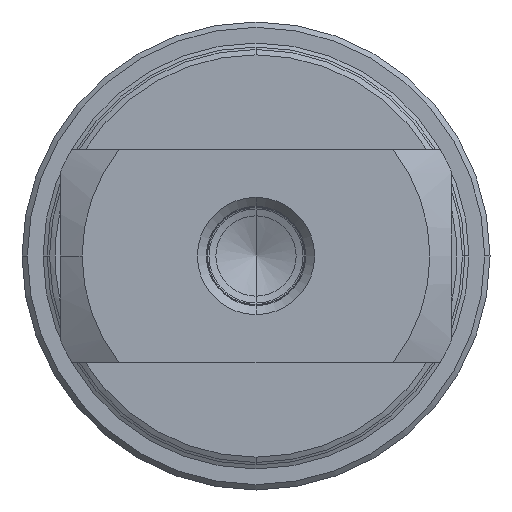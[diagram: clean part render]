
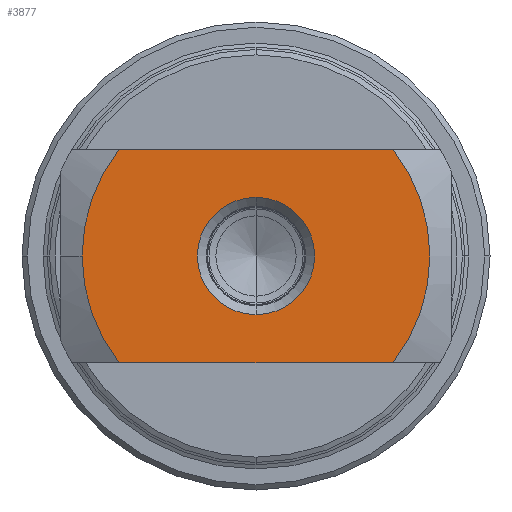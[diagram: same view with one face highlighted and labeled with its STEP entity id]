
A CAD part, front view. The second image highlights one B-rep face of the part: STEP entity #3877.
In plain terms, the highlighted planar face has unit normal (0, -1, 0).
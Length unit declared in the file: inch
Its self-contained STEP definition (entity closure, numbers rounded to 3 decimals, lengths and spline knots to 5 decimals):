
#793 = EDGE_CURVE ( 'NONE', #5869, #5870, #7906, .T. ) ;
#801 = EDGE_CURVE ( 'NONE', #4580, #5793, #6506, .T. ) ;
#804 = EDGE_CURVE ( 'NONE', #5870, #5862, #6508, .T. ) ;
#860 = EDGE_CURVE ( 'NONE', #5792, #5862, #3399, .T. ) ;
#865 = EDGE_CURVE ( 'NONE', #5869, #5791, #6881, .T. ) ;
#1433 = CARTESIAN_POINT ( 'NONE',  ( -0.8125, -1.146, 0. ) ) ;
#1434 = CARTESIAN_POINT ( 'NONE',  ( -0.64043, -1.146, -0.5 ) ) ;
#1435 = CARTESIAN_POINT ( 'NONE',  ( 0., -1.146, -0.2736 ) ) ;
#1504 = CARTESIAN_POINT ( 'NONE',  ( 0.64043, -1.146, -0.5 ) ) ;
#1511 = CARTESIAN_POINT ( 'NONE',  ( -0.64043, -1.146, 0.5 ) ) ;
#1512 = CARTESIAN_POINT ( 'NONE',  ( 0.64043, -1.146, 0.5 ) ) ;
#1807 = CARTESIAN_POINT ( 'NONE',  ( 0., -1.146, 0. ) ) ;
#1808 = DIRECTION ( 'NONE',  ( 0., -1., 0. ) ) ;
#1809 = DIRECTION ( 'NONE',  ( -1., 0., 0. ) ) ;
#1885 = CARTESIAN_POINT ( 'NONE',  ( 0., -1.146, 0. ) ) ;
#1886 = DIRECTION ( 'NONE',  ( 0., 1., 0. ) ) ;
#1887 = DIRECTION ( 'NONE',  ( 0., 0., -1. ) ) ;
#2854 = CARTESIAN_POINT ( 'NONE',  ( 0., -1.146, 0. ) ) ;
#2857 = FACE_BOUND ( 'NONE', #4359, .T. ) ;
#2858 = FACE_OUTER_BOUND ( 'NONE', #4487, .T. ) ;
#2859 = PLANE ( 'NONE',  #6219 ) ;
#2861 = DIRECTION ( 'NONE',  ( 0., -1., 0. ) ) ;
#2862 = DIRECTION ( 'NONE',  ( 0., 0., -1. ) ) ;
#2919 = CARTESIAN_POINT ( 'NONE',  ( 0., -1.146, 0.2736 ) ) ;
#3399 = LINE ( 'NONE', #3401, #6223 ) ;
#3401 = CARTESIAN_POINT ( 'NONE',  ( -0.96995, -1.146, -0.5 ) ) ;
#3402 = DIRECTION ( 'NONE',  ( 1., 0., 0. ) ) ;
#3418 = CARTESIAN_POINT ( 'NONE',  ( 0., -1.146, 0. ) ) ;
#3419 = DIRECTION ( 'NONE',  ( 0., -1., 0. ) ) ;
#3420 = DIRECTION ( 'NONE',  ( -1., 0., 0. ) ) ;
#3877 = ADVANCED_FACE ( 'NONE', ( #2857, #2858 ), #2859, .T. ) ;
#4048 = ORIENTED_EDGE ( 'NONE', *, *, #793, .F. ) ;
#4051 = ORIENTED_EDGE ( 'NONE', *, *, #804, .F. ) ;
#4052 = ORIENTED_EDGE ( 'NONE', *, *, #860, .T. ) ;
#4053 = ORIENTED_EDGE ( 'NONE', *, *, #8069, .T. ) ;
#4054 = ORIENTED_EDGE ( 'NONE', *, *, #865, .T. ) ;
#4055 = ORIENTED_EDGE ( 'NONE', *, *, #801, .T. ) ;
#4056 = ORIENTED_EDGE ( 'NONE', *, *, #8094, .T. ) ;
#4359 = EDGE_LOOP ( 'NONE', ( #4056, #4055 ) ) ;
#4487 = EDGE_LOOP ( 'NONE', ( #4054, #4053, #4052, #4051, #4048 ) ) ;
#4580 = VERTEX_POINT ( 'NONE', #2919 ) ;
#5791 = VERTEX_POINT ( 'NONE', #1433 ) ;
#5792 = VERTEX_POINT ( 'NONE', #1434 ) ;
#5793 = VERTEX_POINT ( 'NONE', #1435 ) ;
#5862 = VERTEX_POINT ( 'NONE', #1504 ) ;
#5869 = VERTEX_POINT ( 'NONE', #1511 ) ;
#5870 = VERTEX_POINT ( 'NONE', #1512 ) ;
#6219 = AXIS2_PLACEMENT_3D ( 'NONE', #2854, #2861, #2862 ) ;
#6223 = VECTOR ( 'NONE', #3402, 39.37008 ) ;
#6496 = VECTOR ( 'NONE', #7910, 39.37008 ) ;
#6506 = CIRCLE ( 'NONE', #6510, 0.2736 ) ;
#6508 = CIRCLE ( 'NONE', #6804, 0.8125 ) ;
#6510 = AXIS2_PLACEMENT_3D ( 'NONE', #7943, #7944, #7945 ) ;
#6804 = AXIS2_PLACEMENT_3D ( 'NONE', #7951, #7952, #7953 ) ;
#6867 = AXIS2_PLACEMENT_3D ( 'NONE', #3418, #3419, #3420 ) ;
#6881 = CIRCLE ( 'NONE', #6867, 0.8125 ) ;
#7331 = AXIS2_PLACEMENT_3D ( 'NONE', #1885, #1886, #1887 ) ;
#7337 = CIRCLE ( 'NONE', #7331, 0.2736 ) ;
#7364 = AXIS2_PLACEMENT_3D ( 'NONE', #1807, #1808, #1809 ) ;
#7367 = CIRCLE ( 'NONE', #7364, 0.8125 ) ;
#7901 = CARTESIAN_POINT ( 'NONE',  ( -0.96995, -1.146, 0.5 ) ) ;
#7906 = LINE ( 'NONE', #7901, #6496 ) ;
#7910 = DIRECTION ( 'NONE',  ( 1., 0., 0. ) ) ;
#7943 = CARTESIAN_POINT ( 'NONE',  ( 0., -1.146, 0. ) ) ;
#7944 = DIRECTION ( 'NONE',  ( 0., 1., 0. ) ) ;
#7945 = DIRECTION ( 'NONE',  ( 0., 0., -1. ) ) ;
#7951 = CARTESIAN_POINT ( 'NONE',  ( 0., -1.146, 0. ) ) ;
#7952 = DIRECTION ( 'NONE',  ( 0., 1., 0. ) ) ;
#7953 = DIRECTION ( 'NONE',  ( -1., 0., 0. ) ) ;
#8069 = EDGE_CURVE ( 'NONE', #5791, #5792, #7367, .T. ) ;
#8094 = EDGE_CURVE ( 'NONE', #5793, #4580, #7337, .T. ) ;
